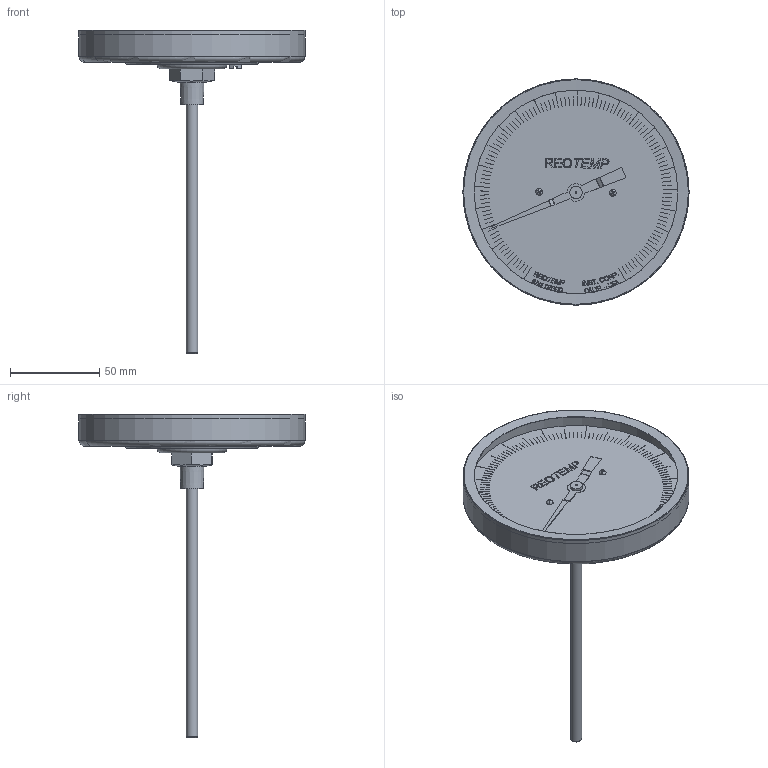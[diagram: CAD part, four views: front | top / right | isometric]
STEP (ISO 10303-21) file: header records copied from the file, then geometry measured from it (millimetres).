
FILE_DESCRIPTION(/* description */ (''),/* implementation_level */ '2;1');
FILE_NAME(/* name */ 'P:\3D Drawings\BB\BB-quarter-NPT\BB-quarter-NPT-STP\BB-quarter-NPT-STP.stp',/* time_stamp */ '2015-11-09T11:10:33-08:00',/* author */ ('charles'),/* organization */ (''),/* preprocessor_version */ 'ST-DEVELOPER v15.2',/* originating_system */ 'Autodesk Inventor 2014',/* authorisation */ '');
FILE_SCHEMA (('AUTOMOTIVE_DESIGN { 1 0 10303 214 3 1 1 }'));
Length unit declared in the file: inch
Products named in the file (1): BB-quarter-NPT
Bounding box: 127 x 127 x 181.8 mm (x, y, z)
Volume: 89003.9 mm3; surface area: 70530.9 mm2
Topology: 17 solids, 17 shells, 1274 faces, 3273 edges, 2171 vertices
Faces by surface type: plane 1035, bspline 201, cylinder 25, torus 9, cone 4
Full cylindrical faces by diameter (mm): 0.778 x1, 1.067 x1, 2.286 x2, 3.175 x1, 6.071 x1, 6.35 x1, 6.934 x1, 6.985 x1, 74.93 x1, 114.348 x1, 121.158 x1, 124.931 x1, 126.683 x1, 127 x1
Entity records: 41101 total; most frequent: CARTESIAN_POINT 10229, ORIENTED_EDGE 6474, DIRECTION 5009, EDGE_CURVE 3237, LINE 2751, VECTOR 2751, VERTEX_POINT 2163, EDGE_LOOP 1526
